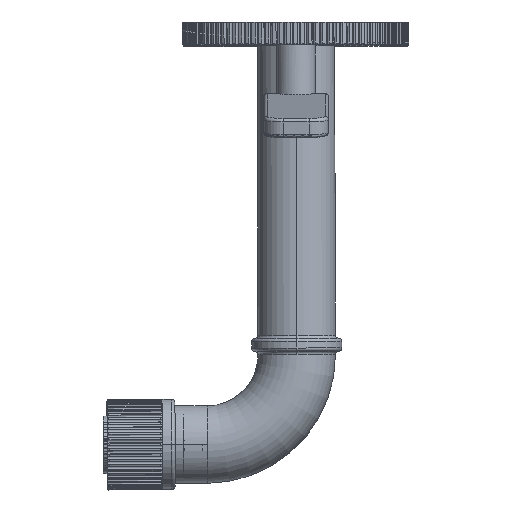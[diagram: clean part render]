
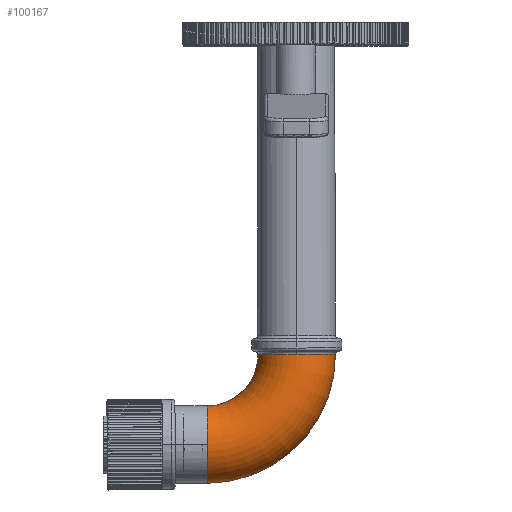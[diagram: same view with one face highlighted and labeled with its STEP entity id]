
A CAD part, top view. The second image highlights one B-rep face of the part: STEP entity #100167.
In plain terms, the highlighted toroidal (fillet/blend) face has major radius 27.805 mm and minor radius 12 mm.
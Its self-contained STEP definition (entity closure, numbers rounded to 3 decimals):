
#200 = EDGE_CURVE ( 'NONE', #11674, #126133, #52855, .T. ) ;
#992 = AXIS2_PLACEMENT_3D ( 'NONE', #112519, #169142, #171011 ) ;
#1515 = CIRCLE ( 'NONE', #102408, 12. ) ;
#11674 = VERTEX_POINT ( 'NONE', #67365 ) ;
#12719 = CARTESIAN_POINT ( 'NONE',  ( -74.555, -88.786, 0.149 ) ) ;
#12887 = VERTEX_POINT ( 'NONE', #14568 ) ;
#13857 = AXIS2_PLACEMENT_3D ( 'NONE', #68340, #124890, #40521 ) ;
#14285 = AXIS2_PLACEMENT_3D ( 'NONE', #97312, #153911, #100069 ) ;
#14568 = CARTESIAN_POINT ( 'NONE',  ( -58.854, -48.94, 0.064 ) ) ;
#17404 = CARTESIAN_POINT ( 'NONE',  ( -74.618, -64.786, 0.149 ) ) ;
#20583 = ORIENTED_EDGE ( 'NONE', *, *, #159174, .T. ) ;
#23706 = CARTESIAN_POINT ( 'NONE',  ( -74.522, -76.786, 12.149 ) ) ;
#23875 = CARTESIAN_POINT ( 'NONE',  ( -74.516, -79.927, 11.837 ) ) ;
#25890 = ORIENTED_EDGE ( 'NONE', *, *, #200, .F. ) ;
#30304 = CIRCLE ( 'NONE', #992, 12. ) ;
#30882 = EDGE_LOOP ( 'NONE', ( #25890, #117975, #120702, #166619, #57076, #20583 ) ) ;
#32930 = DIRECTION ( 'NONE',  ( 0.005, 0., 1. ) ) ;
#40426 = CARTESIAN_POINT ( 'NONE',  ( -74.581, -66.301, 6.193 ) ) ;
#40521 = DIRECTION ( 'NONE',  ( -1., 0., 0.005 ) ) ;
#52513 = CARTESIAN_POINT ( 'NONE',  ( -74.546, -70.743, 10.635 ) ) ;
#52855 = CIRCLE ( 'NONE', #14285, 39.805 ) ;
#53581 = CARTESIAN_POINT ( 'NONE',  ( -74.514, -82.83, 10.635 ) ) ;
#53613 = B_SPLINE_CURVE_WITH_KNOTS ( 'NONE', 3,
 ( #110935, #95224, #151826, #40426, #65489, #122100, #52513, #110015, #64589, #23706 ),
 .UNSPECIFIED., .F., .F.,
 ( 4, 2, 2, 2, 4 ),
 ( 0.75, 0.813, 0.875, 0.938, 1. ),
 .UNSPECIFIED. ) ;
#57076 = ORIENTED_EDGE ( 'NONE', *, *, #166559, .T. ) ;
#61840 = DIRECTION ( 'NONE',  ( -0.003, 1., 0. ) ) ;
#64589 = CARTESIAN_POINT ( 'NONE',  ( -74.526, -75.215, 12.149 ) ) ;
#65489 = CARTESIAN_POINT ( 'NONE',  ( -74.572, -67.19, 7.524 ) ) ;
#67365 = CARTESIAN_POINT ( 'NONE',  ( -34.854, -48.877, -0.064 ) ) ;
#68340 = CARTESIAN_POINT ( 'NONE',  ( -74.658, -48.982, 0.149 ) ) ;
#80537 = CARTESIAN_POINT ( 'NONE',  ( -74.547, -88.786, 1.72 ) ) ;
#82379 = CARTESIAN_POINT ( 'NONE',  ( -74.516, -84.161, 9.745 ) ) ;
#83280 = CARTESIAN_POINT ( 'NONE',  ( -74.522, -76.786, 12.149 ) ) ;
#85764 = TOROIDAL_SURFACE ( 'NONE', #121235, 27.805, 12. ) ;
#93378 = B_SPLINE_CURVE_WITH_KNOTS ( 'NONE', 3,
 ( #83280, #166821, #23875, #53581, #82379, #108381, #153782, #139846, #80537, #12719 ),
 .UNSPECIFIED., .F., .F.,
 ( 4, 2, 2, 2, 4 ),
 ( 0., 0.063, 0.125, 0.188, 0.25 ),
 .UNSPECIFIED. ) ;
#95224 = CARTESIAN_POINT ( 'NONE',  ( -74.609, -64.786, 1.72 ) ) ;
#97312 = CARTESIAN_POINT ( 'NONE',  ( -74.658, -48.982, 0.149 ) ) ;
#100069 = DIRECTION ( 'NONE',  ( -1., 0., 0.005 ) ) ;
#100167 = ADVANCED_FACE ( 'NONE', ( #170584 ), #85764, .T. ) ;
#101903 = VERTEX_POINT ( 'NONE', #17404 ) ;
#102408 = AXIS2_PLACEMENT_3D ( 'NONE', #163770, #161975, #32930 ) ;
#105784 = CIRCLE ( 'NONE', #13857, 15.805 ) ;
#108381 = CARTESIAN_POINT ( 'NONE',  ( -74.522, -86.382, 7.524 ) ) ;
#110015 = CARTESIAN_POINT ( 'NONE',  ( -74.532, -73.645, 11.837 ) ) ;
#110935 = CARTESIAN_POINT ( 'NONE',  ( -74.618, -64.786, 0.149 ) ) ;
#112519 = CARTESIAN_POINT ( 'NONE',  ( -46.854, -48.909, 0. ) ) ;
#113841 = CARTESIAN_POINT ( 'NONE',  ( -74.522, -76.786, 12.149 ) ) ;
#113877 = VERTEX_POINT ( 'NONE', #169998 ) ;
#117975 = ORIENTED_EDGE ( 'NONE', *, *, #175415, .F. ) ;
#118456 = DIRECTION ( 'NONE',  ( -0.005, 0., -1. ) ) ;
#120702 = ORIENTED_EDGE ( 'NONE', *, *, #178157, .F. ) ;
#121235 = AXIS2_PLACEMENT_3D ( 'NONE', #164860, #118456, #61840 ) ;
#122100 = CARTESIAN_POINT ( 'NONE',  ( -74.554, -69.412, 9.745 ) ) ;
#124890 = DIRECTION ( 'NONE',  ( -0.005, 0., -1. ) ) ;
#126133 = VERTEX_POINT ( 'NONE', #148284 ) ;
#135587 = VERTEX_POINT ( 'NONE', #113841 ) ;
#139846 = CARTESIAN_POINT ( 'NONE',  ( -74.539, -88.474, 3.29 ) ) ;
#148284 = CARTESIAN_POINT ( 'NONE',  ( -74.555, -88.786, 0.149 ) ) ;
#151826 = CARTESIAN_POINT ( 'NONE',  ( -74.6, -65.099, 3.29 ) ) ;
#153782 = CARTESIAN_POINT ( 'NONE',  ( -74.527, -87.272, 6.193 ) ) ;
#153911 = DIRECTION ( 'NONE',  ( -0.005, 0., -1. ) ) ;
#157107 = EDGE_CURVE ( 'NONE', #12887, #101903, #105784, .T. ) ;
#159174 = EDGE_CURVE ( 'NONE', #135587, #126133, #93378, .T. ) ;
#161975 = DIRECTION ( 'NONE',  ( -0.003, 1., 0. ) ) ;
#163770 = CARTESIAN_POINT ( 'NONE',  ( -46.854, -48.909, 0. ) ) ;
#164860 = CARTESIAN_POINT ( 'NONE',  ( -74.658, -48.982, 0.149 ) ) ;
#166559 = EDGE_CURVE ( 'NONE', #101903, #135587, #53613, .T. ) ;
#166619 = ORIENTED_EDGE ( 'NONE', *, *, #157107, .T. ) ;
#166821 = CARTESIAN_POINT ( 'NONE',  ( -74.518, -78.357, 12.149 ) ) ;
#169142 = DIRECTION ( 'NONE',  ( -0.003, 1., 0. ) ) ;
#169998 = CARTESIAN_POINT ( 'NONE',  ( -46.79, -48.909, 12. ) ) ;
#170584 = FACE_OUTER_BOUND ( 'NONE', #30882, .T. ) ;
#171011 = DIRECTION ( 'NONE',  ( 0.005, 0., 1. ) ) ;
#175415 = EDGE_CURVE ( 'NONE', #113877, #11674, #30304, .T. ) ;
#178157 = EDGE_CURVE ( 'NONE', #12887, #113877, #1515, .T. ) ;
